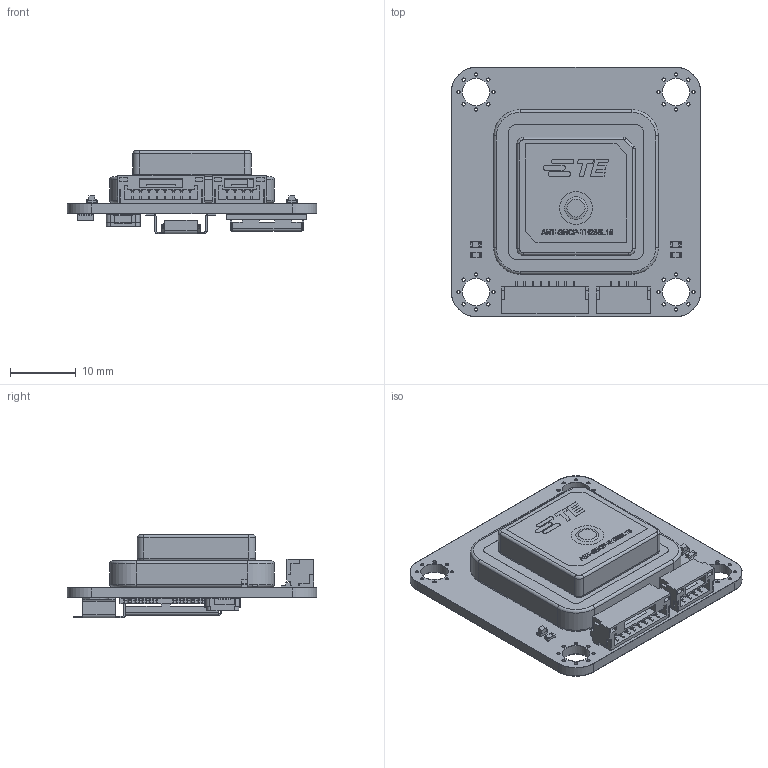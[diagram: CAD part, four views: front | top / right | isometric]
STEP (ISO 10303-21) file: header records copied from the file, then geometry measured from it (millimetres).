
FILE_DESCRIPTION(/* description */ ('KiCad electronic assembly'),/* implementation_level */ '2;1');
FILE_NAME(/* name */ 'Aerium_Atlas_3D_Model_Rev_A.step',/* time_stamp */ '2026-09-03T11:37:06+03:00',/* author */ (''),/* organization */ (''),/* preprocessor_version */ 'ST-DEVELOPER v20.1',/* originating_system */ 'Autodesk Translation Framework v15.8.0.0',/* authorisation */ '');
FILE_SCHEMA (('AUTOMOTIVE_DESIGN { 1 0 10303 214 3 1 1 }'));
Products named in the file (15): 2025-11-29-22-52-37-016; 2025-11-29-22-52-37-018; 2025-11-29-22-52-37-019; 2025-11-29-22-52-37-021; 2025-11-29-22-52-37-022; 2025-11-29-22-52-37-023; 2025-11-29-22-52-37-024; 2025-11-29-22-52-37-025; 2025-11-29-22-52-37-026; 2025-11-29-22-52-37-027; 2025-11-29-22-52-37-028; 2025-11-29-22-52-37-030; 2025-11-29-22-52-37-031; 2025-11-29-22-52-37-020; 2025-11-29-22-52-37-017
Assembly tree (16 placements, depth 3):
  2025-11-29-22-52-37-016
    2025-11-29-22-52-37-017  x2
    2025-11-29-22-52-37-018
    2025-11-29-22-52-37-019
    2025-11-29-22-52-37-020  x2
    2025-11-29-22-52-37-021
    2025-11-29-22-52-37-022
      2025-11-29-22-52-37-023
      2025-11-29-22-52-37-024
    2025-11-29-22-52-37-025
    2025-11-29-22-52-37-026
      2025-11-29-22-52-37-027
    2025-11-29-22-52-37-028
    2025-11-29-22-52-37-030
    2025-11-29-22-52-37-031
Bounding box: 38 x 38 x 12.78 mm (x, y, z)
Volume: 6301.5 mm3; surface area: 11826.2 mm2
Topology: 80 solids, 82 shells, 2127 faces, 5604 edges, 3696 vertices
Faces by surface type: plane 1671, cylinder 284, bspline 148, torus 18, sphere 4, cone 2
Full cylindrical faces by diameter (mm): 0.5 x32, 0.83 x2, 0.95 x1, 1.2 x1, 1.458 x2, 1.7 x4, 2.5 x2, 3.5 x2, 4.2 x4, 5 x3
Entity records: 72659 total; most frequent: CARTESIAN_POINT 20708, ORIENTED_EDGE 10690, DIRECTION 9635, EDGE_CURVE 5403, LINE 4449, VECTOR 4449, VERTEX_POINT 3566, AXIS2_PLACEMENT_3D 2593
